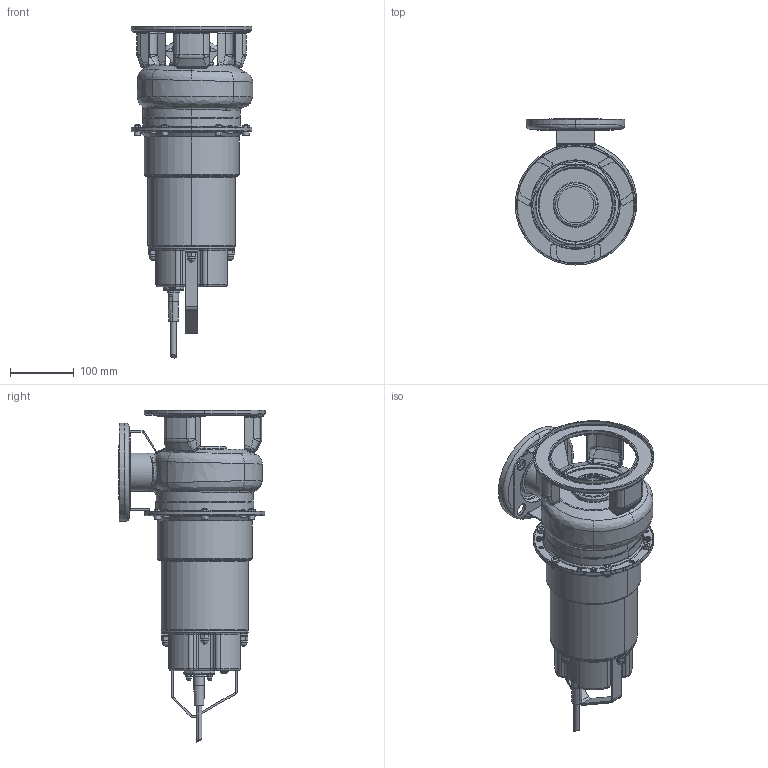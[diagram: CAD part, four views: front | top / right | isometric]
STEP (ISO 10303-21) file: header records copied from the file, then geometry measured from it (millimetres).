
FILE_DESCRIPTION((''),'2;1');
FILE_NAME('DWF_75_ASM','2009-09-28T',('Utente'),('"Ebara Pumps Europe +39.444.706811"'),'PRO/ENGINEER BY PARAMETRIC TECHNOLOGY CORPORATION, 2008400','PRO/ENGINEER BY PARAMETRIC TECHNOLOGY CORPORATION, 2008400','');
FILE_SCHEMA(('AUTOMOTIVE_DESIGN { 1 0 10303 214 1 1 1 1 }'));
Length unit declared in the file: millimetre
Products named in the file (18): 20698; DADO_A_SALDARE_M6; DADO_M5; 62032; 20986; 20985; 20987_ASM; 15032; 72074; CORPO_POMPA_DWF_ASM; CASSA_MOTORE_BASSA; COPERCHIO_MOTORE_25081; 60022; 66002_SEMPLICE; 65003_SEMPLICE; DADO_CALOTTA_M5; VITE_TCC_M5X8_UNI7687; DWF_75_ASM
Assembly tree (28 placements, depth 4):
  DWF_75_ASM
    CORPO_POMPA_DWF_ASM
      20698
      DADO_A_SALDARE_M6  x6
      DADO_M5  x4
      62032
      20987_ASM
        20986
        20985
      15032
      72074  x3
    CASSA_MOTORE_BASSA
    COPERCHIO_MOTORE_25081
    60022
    66002_SEMPLICE
    65003_SEMPLICE
    DADO_CALOTTA_M5  x2
    VITE_TCC_M5X8_UNI7687
Bounding box: 191.31 x 230 x 522.52 mm (x, y, z)
Volume: 4080443.8 mm3; surface area: 616596.7 mm2
Topology: 26 solids, 29 shells, 1215 faces, 2804 edges, 1702 vertices
Faces by surface type: plane 376, cylinder 365, bspline 178, torus 157, cone 109, sphere 26, extrusion 4
Entity records: 37567 total; most frequent: CARTESIAN_POINT 14503, DIRECTION 4802, ORIENTED_EDGE 4396, EDGE_CURVE 2200, AXIS2_PLACEMENT_3D 2017, VERTEX_POINT 1345, CIRCLE 1109, EDGE_LOOP 1059
